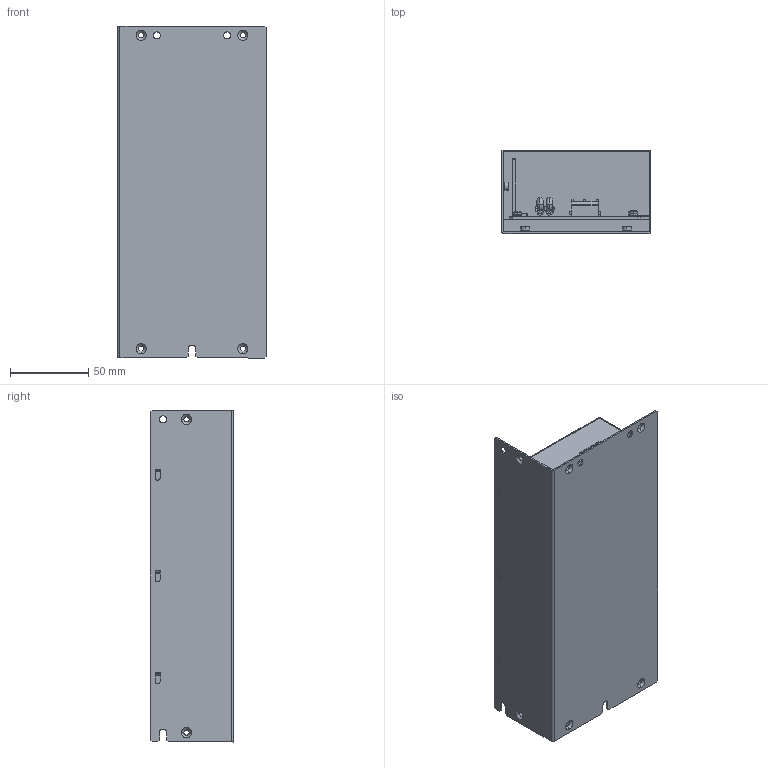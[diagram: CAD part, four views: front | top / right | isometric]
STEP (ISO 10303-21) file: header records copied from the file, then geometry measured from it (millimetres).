
FILE_DESCRIPTION (( 'STEP AP214' ), '1' );
FILE_NAME ('zws300baf_a_outline.STEP', '2015-07-22T01:03:37', ( 'tluser' ), ( '' ), 'SwSTEP 2.0', 'SolidWorks 2013', '' );
FILE_SCHEMA (( 'AUTOMOTIVE_DESIGN' ));
Length unit declared in the file: millimetre
Products named in the file (1): zws300baf_a_outline
Bounding box: 95 x 53 x 212 mm (x, y, z)
Volume: 786146.2 mm3; surface area: 105066.3 mm2
Topology: 1 solids, 1 shells, 690 faces, 1762 edges, 1102 vertices
Faces by surface type: plane 421, cylinder 159, cone 66, bspline 44
Entity records: 29090 total; most frequent: CARTESIAN_POINT 4761, ORIENTED_EDGE 3508, DIRECTION 3462, EDGE_CURVE 1754, AXIS2_PLACEMENT_3D 1187, VERTEX_POINT 1102, VECTOR 1088, LINE 1088
